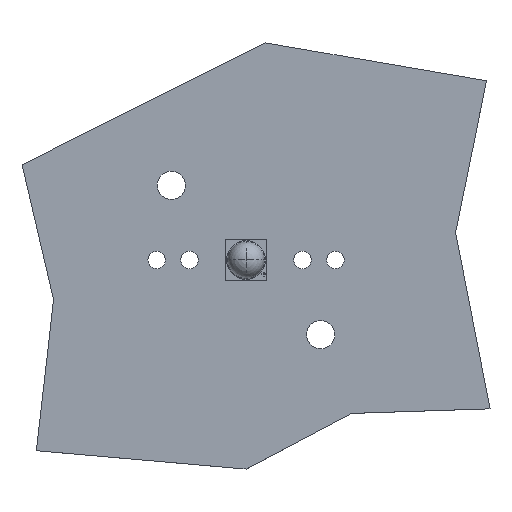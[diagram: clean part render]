
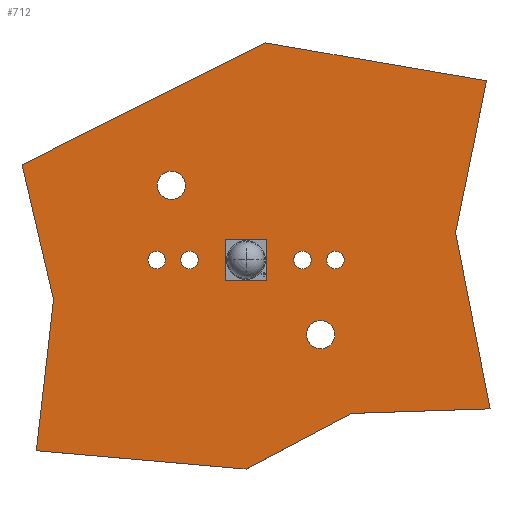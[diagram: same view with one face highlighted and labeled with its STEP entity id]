
A CAD part, top view. The second image highlights one B-rep face of the part: STEP entity #712.
In plain terms, the highlighted planar face has unit normal (0, 0, 1).
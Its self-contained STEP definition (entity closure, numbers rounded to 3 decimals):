
#60=CARTESIAN_POINT('Vertex',(0.,-25.162,-0.12)) ;
#65=CARTESIAN_POINT('Line Origine',(-12.617,-24.058,-0.12)) ;
#69=CARTESIAN_POINT('Vertex',(-25.234,-22.953,-0.12)) ;
#96=CARTESIAN_POINT('Line Origine',(-24.198,-13.877,-0.12)) ;
#100=CARTESIAN_POINT('Vertex',(-23.163,-4.8,-0.12)) ;
#127=CARTESIAN_POINT('Line Origine',(-25.061,3.345,-0.12)) ;
#131=CARTESIAN_POINT('Vertex',(-26.959,11.489,-0.12)) ;
#158=CARTESIAN_POINT('Line Origine',(-12.292,18.806,-0.12)) ;
#162=CARTESIAN_POINT('Vertex',(2.376,26.122,-0.12)) ;
#189=CARTESIAN_POINT('Line Origine',(15.663,23.844,-0.12)) ;
#193=CARTESIAN_POINT('Vertex',(28.95,21.567,-0.12)) ;
#220=CARTESIAN_POINT('Line Origine',(27.086,12.421,-0.12)) ;
#224=CARTESIAN_POINT('Vertex',(25.222,3.276,-0.12)) ;
#251=CARTESIAN_POINT('Line Origine',(27.293,-7.32,-0.12)) ;
#255=CARTESIAN_POINT('Vertex',(29.364,-17.915,-0.12)) ;
#282=CARTESIAN_POINT('Line Origine',(21.046,-18.191,-0.12)) ;
#286=CARTESIAN_POINT('Vertex',(12.729,-18.467,-0.12)) ;
#313=CARTESIAN_POINT('Line Origine',(6.365,-21.814,-0.12)) ;
#348=CARTESIAN_POINT('Vertex',(7.85,0.,-0.12)) ;
#351=CARTESIAN_POINT('Axis2P3D Location',(6.8,0.,-0.12)) ;
#355=CARTESIAN_POINT('Vertex',(5.75,0.,-0.12)) ;
#375=CARTESIAN_POINT('Axis2P3D Location',(6.8,0.,-0.12)) ;
#405=CARTESIAN_POINT('Vertex',(11.81,0.,-0.12)) ;
#408=CARTESIAN_POINT('Axis2P3D Location',(10.76,0.,-0.12)) ;
#412=CARTESIAN_POINT('Vertex',(9.71,0.,-0.12)) ;
#432=CARTESIAN_POINT('Axis2P3D Location',(10.76,0.,-0.12)) ;
#462=CARTESIAN_POINT('Vertex',(10.68,-8.98,-0.12)) ;
#465=CARTESIAN_POINT('Axis2P3D Location',(8.98,-8.98,-0.12)) ;
#469=CARTESIAN_POINT('Vertex',(7.28,-8.98,-0.12)) ;
#489=CARTESIAN_POINT('Axis2P3D Location',(8.98,-8.98,-0.12)) ;
#519=CARTESIAN_POINT('Vertex',(-7.28,8.98,-0.12)) ;
#522=CARTESIAN_POINT('Axis2P3D Location',(-8.98,8.98,-0.12)) ;
#526=CARTESIAN_POINT('Vertex',(-10.68,8.98,-0.12)) ;
#546=CARTESIAN_POINT('Axis2P3D Location',(-8.98,8.98,-0.12)) ;
#576=CARTESIAN_POINT('Vertex',(-11.81,0.,-0.12)) ;
#579=CARTESIAN_POINT('Axis2P3D Location',(-10.76,0.,-0.12)) ;
#583=CARTESIAN_POINT('Vertex',(-9.71,0.,-0.12)) ;
#603=CARTESIAN_POINT('Axis2P3D Location',(-10.76,0.,-0.12)) ;
#633=CARTESIAN_POINT('Vertex',(-7.85,0.,-0.12)) ;
#636=CARTESIAN_POINT('Axis2P3D Location',(-6.8,0.,-0.12)) ;
#640=CARTESIAN_POINT('Vertex',(-5.75,0.,-0.12)) ;
#660=CARTESIAN_POINT('Axis2P3D Location',(-6.8,0.,-0.12)) ;
#672=CARTESIAN_POINT('Axis2P3D Location',(0.,0.,-0.12)) ;
#66=DIRECTION('Vector Direction',(0.996,-0.087,0.)) ;
#97=DIRECTION('Vector Direction',(-0.113,-0.994,0.)) ;
#128=DIRECTION('Vector Direction',(0.227,-0.974,0.)) ;
#159=DIRECTION('Vector Direction',(-0.895,-0.446,0.)) ;
#190=DIRECTION('Vector Direction',(-0.986,0.169,0.)) ;
#221=DIRECTION('Vector Direction',(0.2,0.98,0.)) ;
#252=DIRECTION('Vector Direction',(-0.192,0.981,0.)) ;
#283=DIRECTION('Vector Direction',(0.999,0.033,0.)) ;
#314=DIRECTION('Vector Direction',(0.885,0.466,0.)) ;
#352=DIRECTION('Axis2P3D Direction',(0.,0.,-1.)) ;
#376=DIRECTION('Axis2P3D Direction',(0.,0.,-1.)) ;
#409=DIRECTION('Axis2P3D Direction',(0.,0.,-1.)) ;
#433=DIRECTION('Axis2P3D Direction',(0.,0.,-1.)) ;
#466=DIRECTION('Axis2P3D Direction',(0.,0.,-1.)) ;
#490=DIRECTION('Axis2P3D Direction',(0.,0.,-1.)) ;
#523=DIRECTION('Axis2P3D Direction',(0.,0.,-1.)) ;
#547=DIRECTION('Axis2P3D Direction',(0.,0.,-1.)) ;
#580=DIRECTION('Axis2P3D Direction',(0.,0.,-1.)) ;
#604=DIRECTION('Axis2P3D Direction',(0.,0.,-1.)) ;
#637=DIRECTION('Axis2P3D Direction',(0.,0.,-1.)) ;
#661=DIRECTION('Axis2P3D Direction',(0.,0.,-1.)) ;
#673=DIRECTION('Axis2P3D Direction',(0.,0.,-1.)) ;
#674=DIRECTION('Axis2P3D XDirection',(1.,0.,0.)) ;
#353=AXIS2_PLACEMENT_3D('Circle Axis2P3D',#351,#352,$) ;
#377=AXIS2_PLACEMENT_3D('Circle Axis2P3D',#375,#376,$) ;
#410=AXIS2_PLACEMENT_3D('Circle Axis2P3D',#408,#409,$) ;
#434=AXIS2_PLACEMENT_3D('Circle Axis2P3D',#432,#433,$) ;
#467=AXIS2_PLACEMENT_3D('Circle Axis2P3D',#465,#466,$) ;
#491=AXIS2_PLACEMENT_3D('Circle Axis2P3D',#489,#490,$) ;
#524=AXIS2_PLACEMENT_3D('Circle Axis2P3D',#522,#523,$) ;
#548=AXIS2_PLACEMENT_3D('Circle Axis2P3D',#546,#547,$) ;
#581=AXIS2_PLACEMENT_3D('Circle Axis2P3D',#579,#580,$) ;
#605=AXIS2_PLACEMENT_3D('Circle Axis2P3D',#603,#604,$) ;
#638=AXIS2_PLACEMENT_3D('Circle Axis2P3D',#636,#637,$) ;
#662=AXIS2_PLACEMENT_3D('Circle Axis2P3D',#660,#661,$) ;
#675=AXIS2_PLACEMENT_3D('Plane Axis2P3D',#672,#673,#674) ;
#678=ORIENTED_EDGE('',*,*,#317,.F.) ;
#679=ORIENTED_EDGE('',*,*,#288,.F.) ;
#680=ORIENTED_EDGE('',*,*,#257,.F.) ;
#681=ORIENTED_EDGE('',*,*,#226,.F.) ;
#682=ORIENTED_EDGE('',*,*,#195,.F.) ;
#683=ORIENTED_EDGE('',*,*,#164,.F.) ;
#684=ORIENTED_EDGE('',*,*,#133,.F.) ;
#685=ORIENTED_EDGE('',*,*,#102,.F.) ;
#686=ORIENTED_EDGE('',*,*,#71,.F.) ;
#689=ORIENTED_EDGE('',*,*,#379,.T.) ;
#690=ORIENTED_EDGE('',*,*,#357,.T.) ;
#693=ORIENTED_EDGE('',*,*,#436,.T.) ;
#694=ORIENTED_EDGE('',*,*,#414,.T.) ;
#697=ORIENTED_EDGE('',*,*,#493,.T.) ;
#698=ORIENTED_EDGE('',*,*,#471,.T.) ;
#701=ORIENTED_EDGE('',*,*,#550,.T.) ;
#702=ORIENTED_EDGE('',*,*,#528,.T.) ;
#705=ORIENTED_EDGE('',*,*,#607,.T.) ;
#706=ORIENTED_EDGE('',*,*,#585,.T.) ;
#709=ORIENTED_EDGE('',*,*,#664,.T.) ;
#710=ORIENTED_EDGE('',*,*,#642,.T.) ;
#691=FACE_BOUND('',#688,.T.) ;
#695=FACE_BOUND('',#692,.T.) ;
#699=FACE_BOUND('',#696,.T.) ;
#703=FACE_BOUND('',#700,.T.) ;
#707=FACE_BOUND('',#704,.T.) ;
#711=FACE_BOUND('',#708,.T.) ;
#67=VECTOR('Line Direction',#66,1.) ;
#98=VECTOR('Line Direction',#97,1.) ;
#129=VECTOR('Line Direction',#128,1.) ;
#160=VECTOR('Line Direction',#159,1.) ;
#191=VECTOR('Line Direction',#190,1.) ;
#222=VECTOR('Line Direction',#221,1.) ;
#253=VECTOR('Line Direction',#252,1.) ;
#284=VECTOR('Line Direction',#283,1.) ;
#315=VECTOR('Line Direction',#314,1.) ;
#712=ADVANCED_FACE('PCB',(#687,#691,#695,#699,#703,#707,#711),#676,.F.) ;
#354=CIRCLE('generated circle',#353,1.05) ;
#378=CIRCLE('generated circle',#377,1.05) ;
#411=CIRCLE('generated circle',#410,1.05) ;
#435=CIRCLE('generated circle',#434,1.05) ;
#468=CIRCLE('generated circle',#467,1.7) ;
#492=CIRCLE('generated circle',#491,1.7) ;
#525=CIRCLE('generated circle',#524,1.7) ;
#549=CIRCLE('generated circle',#548,1.7) ;
#582=CIRCLE('generated circle',#581,1.05) ;
#606=CIRCLE('generated circle',#605,1.05) ;
#639=CIRCLE('generated circle',#638,1.05) ;
#663=CIRCLE('generated circle',#662,1.05) ;
#71=EDGE_CURVE('',#61,#70,#68,.F.) ;
#102=EDGE_CURVE('',#70,#101,#99,.F.) ;
#133=EDGE_CURVE('',#101,#132,#130,.F.) ;
#164=EDGE_CURVE('',#132,#163,#161,.F.) ;
#195=EDGE_CURVE('',#163,#194,#192,.F.) ;
#226=EDGE_CURVE('',#194,#225,#223,.F.) ;
#257=EDGE_CURVE('',#225,#256,#254,.F.) ;
#288=EDGE_CURVE('',#256,#287,#285,.F.) ;
#317=EDGE_CURVE('',#287,#61,#316,.F.) ;
#357=EDGE_CURVE('',#356,#349,#354,.T.) ;
#379=EDGE_CURVE('',#349,#356,#378,.T.) ;
#414=EDGE_CURVE('',#413,#406,#411,.T.) ;
#436=EDGE_CURVE('',#406,#413,#435,.T.) ;
#471=EDGE_CURVE('',#470,#463,#468,.T.) ;
#493=EDGE_CURVE('',#463,#470,#492,.T.) ;
#528=EDGE_CURVE('',#527,#520,#525,.T.) ;
#550=EDGE_CURVE('',#520,#527,#549,.T.) ;
#585=EDGE_CURVE('',#584,#577,#582,.T.) ;
#607=EDGE_CURVE('',#577,#584,#606,.T.) ;
#642=EDGE_CURVE('',#641,#634,#639,.T.) ;
#664=EDGE_CURVE('',#634,#641,#663,.T.) ;
#677=EDGE_LOOP('',(#678,#679,#680,#681,#682,#683,#684,#685,#686)) ;
#688=EDGE_LOOP('',(#689,#690)) ;
#692=EDGE_LOOP('',(#693,#694)) ;
#696=EDGE_LOOP('',(#697,#698)) ;
#700=EDGE_LOOP('',(#701,#702)) ;
#704=EDGE_LOOP('',(#705,#706)) ;
#708=EDGE_LOOP('',(#709,#710)) ;
#687=FACE_OUTER_BOUND('',#677,.T.) ;
#68=LINE('Line',#65,#67) ;
#99=LINE('Line',#96,#98) ;
#130=LINE('Line',#127,#129) ;
#161=LINE('Line',#158,#160) ;
#192=LINE('Line',#189,#191) ;
#223=LINE('Line',#220,#222) ;
#254=LINE('Line',#251,#253) ;
#285=LINE('Line',#282,#284) ;
#316=LINE('Line',#313,#315) ;
#676=PLANE('',#675) ;
#61=VERTEX_POINT('',#60) ;
#70=VERTEX_POINT('',#69) ;
#101=VERTEX_POINT('',#100) ;
#132=VERTEX_POINT('',#131) ;
#163=VERTEX_POINT('',#162) ;
#194=VERTEX_POINT('',#193) ;
#225=VERTEX_POINT('',#224) ;
#256=VERTEX_POINT('',#255) ;
#287=VERTEX_POINT('',#286) ;
#349=VERTEX_POINT('',#348) ;
#356=VERTEX_POINT('',#355) ;
#406=VERTEX_POINT('',#405) ;
#413=VERTEX_POINT('',#412) ;
#463=VERTEX_POINT('',#462) ;
#470=VERTEX_POINT('',#469) ;
#520=VERTEX_POINT('',#519) ;
#527=VERTEX_POINT('',#526) ;
#577=VERTEX_POINT('',#576) ;
#584=VERTEX_POINT('',#583) ;
#634=VERTEX_POINT('',#633) ;
#641=VERTEX_POINT('',#640) ;
